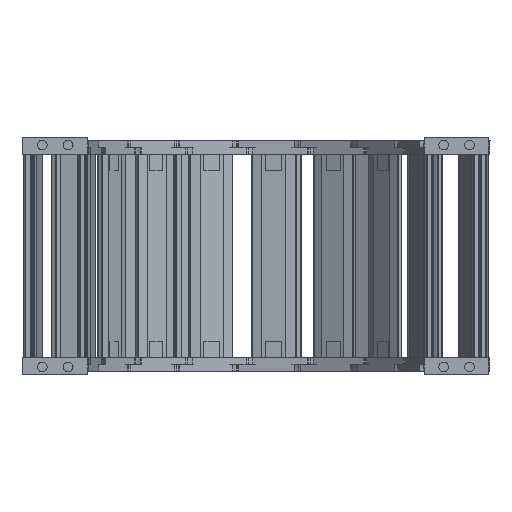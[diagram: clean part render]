
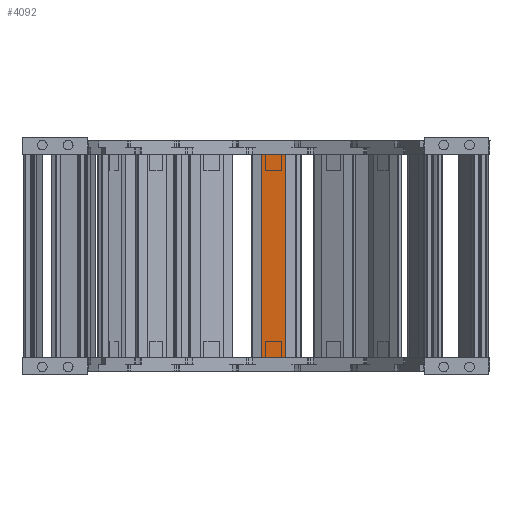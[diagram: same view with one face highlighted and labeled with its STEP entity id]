
A CAD part, left-side view. The second image highlights one B-rep face of the part: STEP entity #4092.
In plain terms, the highlighted planar face has unit normal (-0.996, 0.094, 0) as drawn and (0, -1, 0) by its records, which use the part's own axes.
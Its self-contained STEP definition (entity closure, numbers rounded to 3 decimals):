
#3646=DIRECTION('',(0.,0.,-1.));
#3647=VECTOR('',#3646,15.);
#3648=CARTESIAN_POINT('',(-13.5,0.,7.5));
#3649=LINE('',#3648,#3647);
#3733=DIRECTION('',(-1.,0.,0.));
#3734=VECTOR('',#3733,125.4);
#3735=CARTESIAN_POINT('',(111.9,0.,-7.5));
#3736=LINE('',#3735,#3734);
#3740=DIRECTION('',(1.,0.,0.));
#3741=VECTOR('',#3740,125.4);
#3742=CARTESIAN_POINT('',(-13.5,0.,7.5));
#3743=LINE('',#3742,#3741);
#3747=DIRECTION('',(0.,0.,-1.));
#3748=VECTOR('',#3747,15.);
#3749=CARTESIAN_POINT('',(111.9,0.,7.5));
#3750=LINE('',#3749,#3748);
#3865=CARTESIAN_POINT('',(111.9,0.,7.5));
#3866=CARTESIAN_POINT('',(111.9,0.,-7.5));
#3867=VERTEX_POINT('',#3865);
#3868=VERTEX_POINT('',#3866);
#3889=CARTESIAN_POINT('',(-13.5,0.,-7.5));
#3890=VERTEX_POINT('',#3889);
#3891=CARTESIAN_POINT('',(-13.5,0.,7.5));
#3892=VERTEX_POINT('',#3891);
#4079=CARTESIAN_POINT('',(80.4,0.,0.));
#4080=DIRECTION('',(0.,1.,0.));
#4081=DIRECTION('',(1.,0.,0.));
#4082=AXIS2_PLACEMENT_3D('',#4079,#4080,#4081);
#4083=PLANE('',#4082);
#4084=ORIENTED_EDGE('',*,*,#4065,.T.);
#4085=ORIENTED_EDGE('',*,*,#3930,.F.);
#4087=ORIENTED_EDGE('',*,*,#4086,.T.);
#4089=ORIENTED_EDGE('',*,*,#4088,.T.);
#4090=EDGE_LOOP('',(#4084,#4085,#4087,#4089));
#4091=FACE_OUTER_BOUND('',#4090,.F.);
#4092=ADVANCED_FACE('',(#4091),#4083,.F.);
#3930=EDGE_CURVE('',#3892,#3890,#3649,.T.);
#4065=EDGE_CURVE('',#3868,#3890,#3736,.T.);
#4086=EDGE_CURVE('',#3892,#3867,#3743,.T.);
#4088=EDGE_CURVE('',#3867,#3868,#3750,.T.);
